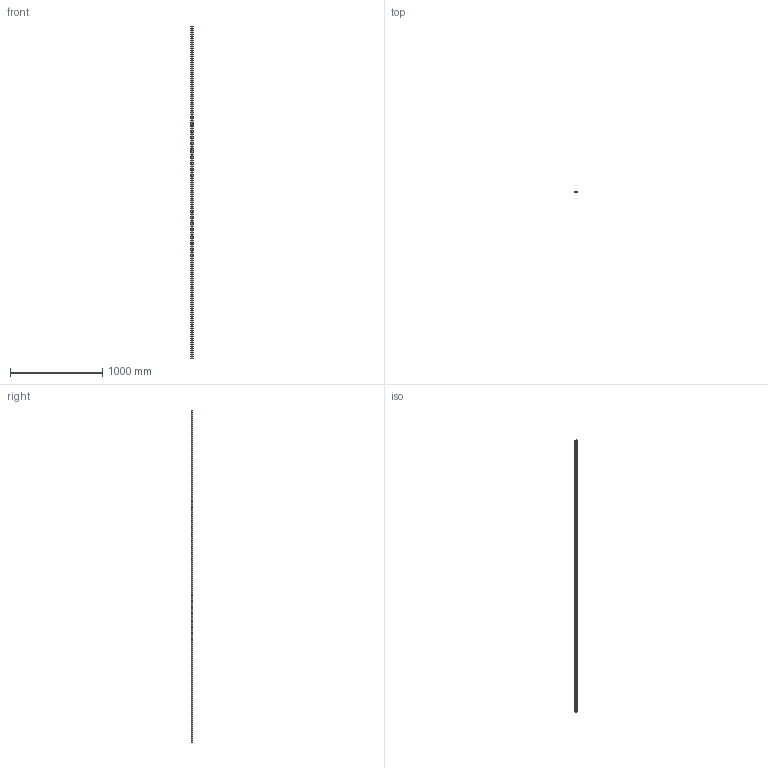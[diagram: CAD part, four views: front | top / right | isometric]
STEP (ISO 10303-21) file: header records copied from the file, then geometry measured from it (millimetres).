
FILE_DESCRIPTION(('STEP AP214'),'1');
FILE_NAME('rail_tex26-3600.stp','2019-03-08T08:29:49',('TraceParts'),('TraceParts S.A.'),'Spatial InterOp 3D',' ',' ');
FILE_SCHEMA(('automotive_design'));
Length unit declared in the file: millimetre
Products named in the file (1): rail_tex26-3600
Bounding box: 26.06 x 14 x 3600 mm (x, y, z)
Volume: 372688 mm3; surface area: 317305.6 mm2
Topology: 1 solids, 1 shells, 777 faces, 2013 edges, 1342 vertices
Faces by surface type: plane 547, bspline 128, cylinder 102
Entity records: 49520 total; most frequent: CARTESIAN_POINT 24717, ORIENTED_EDGE 4026, DIRECTION 3261, EDGE_CURVE 2013, LINE 1553, VECTOR 1553, VERTEX_POINT 1342, EDGE_LOOP 971
